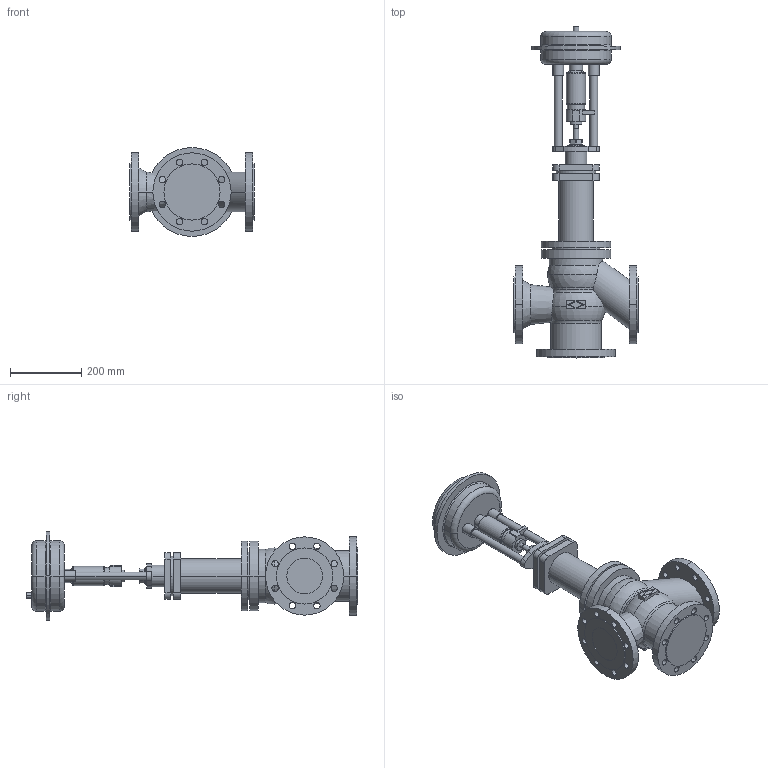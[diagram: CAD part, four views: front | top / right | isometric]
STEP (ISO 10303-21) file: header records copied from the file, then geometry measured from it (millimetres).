
FILE_DESCRIPTION(('OneSpaceDesigner STEP Export'),'2;1');
FILE_NAME('c000000435.stp','2006-09-20T10:00:06',(''),(''),'OneSpace Designer STEP processor for AP214 (Solid Model)','OneSpace Designer 13.20A 18-Aug-2005 (C) CoCreate Software GmbH','');
FILE_SCHEMA(('AUTOMOTIVE_DESIGN { 1 0 10303 214 1 1 1 1 }'));
Length unit declared in the file: millimetre
Products named in the file (2): 1; 2
Bounding box: 350 x 933.7 x 250 mm (x, y, z)
Volume: 15806600.6 mm3; surface area: 869660.6 mm2
Topology: 2 solids, 2 shells, 265 faces, 660 edges, 429 vertices
Faces by surface type: cylinder 134, plane 93, torus 26, cone 8, sphere 4
Entity records: 7161 total; most frequent: CARTESIAN_POINT 1356, ORIENTED_EDGE 1312, DIRECTION 1052, EDGE_CURVE 656, VERTEX_POINT 429, AXIS2_PLACEMENT_3D 387, EDGE_LOOP 347, VECTOR 278
